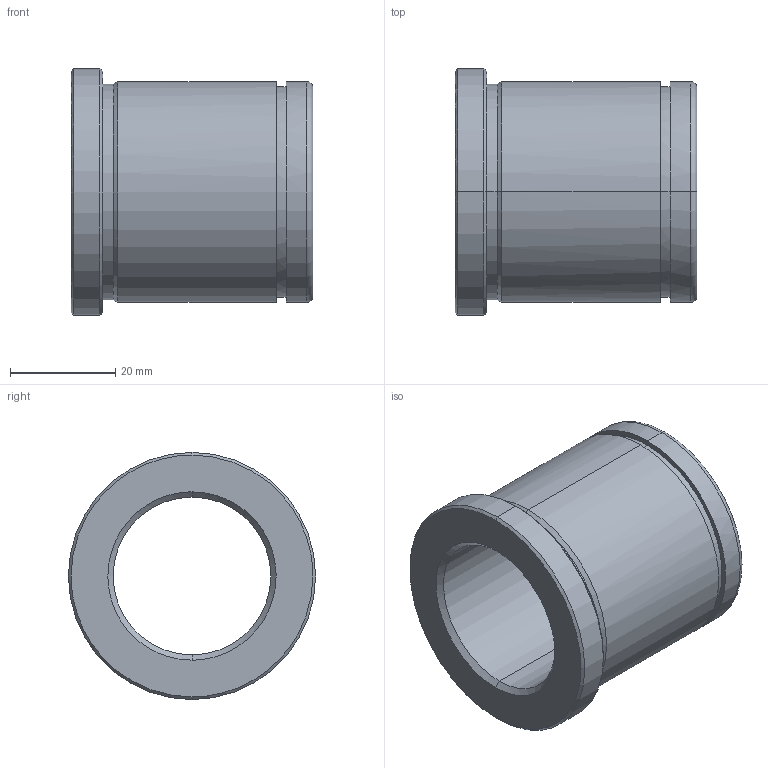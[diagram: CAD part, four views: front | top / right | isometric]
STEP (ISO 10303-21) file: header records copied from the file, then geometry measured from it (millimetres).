
FILE_DESCRIPTION(('CATIA V5 STEP Exchange'),'2;1');
FILE_NAME('C:\Users\Utente\Desktop\IO LAVORO\3D X SITO CF\X SITO\PLASTICA\553\553-30X46.stp','2021-05-26T18:26:15+00:00',('none'),('none'),'CATIA Version 5 Release 20 GA (IN-10)','CATIA V5 STEP AP203','none');
FILE_SCHEMA(('CONFIG_CONTROL_DESIGN'));
Length unit declared in the file: millimetre
Products named in the file (1): 553-30X46
Bounding box: 46 x 47 x 47 mm (x, y, z)
Volume: 32658.7 mm3; surface area: 12568.4 mm2
Topology: 1 solids, 1 shells, 29 faces, 92 edges, 68 vertices
Faces by surface type: cylinder 12, cone 8, plane 5, torus 4
Entity records: 1228 total; most frequent: CARTESIAN_POINT 378, ORIENTED_EDGE 184, DIRECTION 134, EDGE_CURVE 92, AXIS2_PLACEMENT_3D 86, VERTEX_POINT 68, CIRCLE 56, EDGE_LOOP 34
